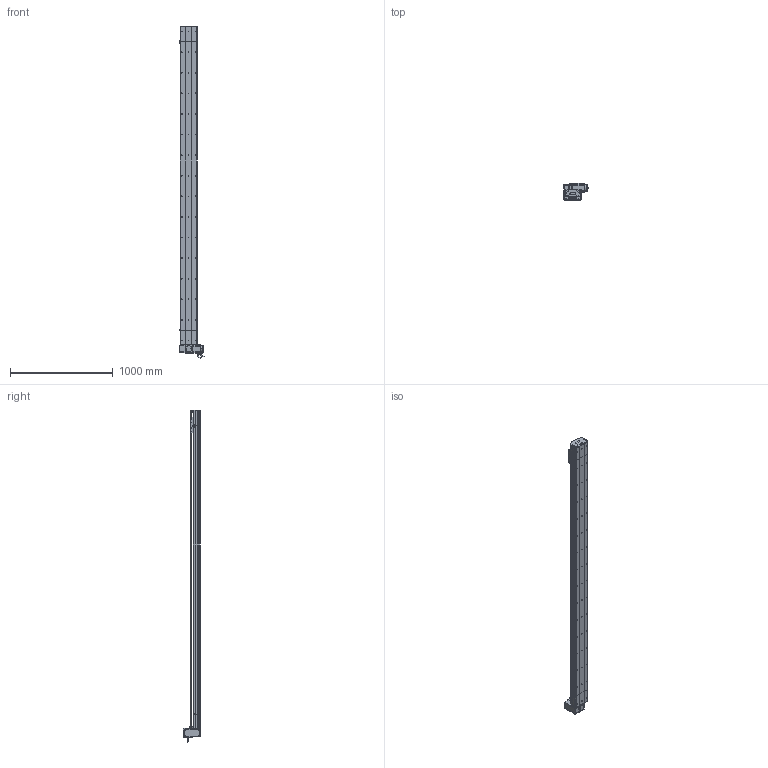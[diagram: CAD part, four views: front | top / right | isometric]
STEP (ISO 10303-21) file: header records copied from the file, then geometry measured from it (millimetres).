
FILE_DESCRIPTION (( 'STEP AP214' ), '1' );
FILE_NAME ('D17 TBH RT S2800.STEP', '2010-06-30T08:55:53', ( 'Christophe Gaillard' ), ( 'SGA' ), 'SwSTEP 2.0', 'SolidWorks 2010', '' );
FILE_SCHEMA (( 'AUTOMOTIVE_DESIGN' ));
Length unit declared in the file: millimetre
Products named in the file (40): course 2800 D17B_Default; vis M5 L70_Default; couvercle D17B course L2800_Default; corpl head D17 _Default; Head RT D17B_Default; plaque de  bout head D17B RT_Default; couvercle D17B head_Default; Arbre+rail head D17B; cache D17_Default; couvercle D17B_Default; tete d''axe poulie D17B; Conecteur_Default; corps 90BLDC125A-640; vis M5 L25_Default; Conecteur2_Default; guide D17; vis M5 L5_Default; poulie head_Default; couroie head D17_Default; Vis M5 L16-2_Default; vis M5 L8 90°_Default; Rail D17B; Couroie+ rail D17 Course 2800 ; Moteur motionking 90BLDC125A-640; plaque de  bout tail D17B_Default; Plaque racord D17_Default; vis M5 L12_Default; corp D17B 2800_Default; Couroie tail D17B_Default; Chariot D17; avant 90BLDC125A-640; vis M5 L16_Default; chariot D17S_Default; cache arbre D17_Default; corpl tail D17B_Default; Tail D17B_Default; Renvoi RT_Default; codeur 90BLDC125-640; D17 TBH RT S2800; poulie tail_Default
Assembly tree (70 placements, depth 4):
  D17 TBH RT S2800
    Tail D17B_Default
      Couroie tail D17B_Default
      vis M5 L25_Default  x2
      Rail D17B
      tete d''axe poulie D17B
      vis M5 L8 90°_Default  x2
      poulie tail_Default
      vis M5 L12_Default  x4
      corpl tail D17B_Default
      couvercle D17B_Default
      plaque de  bout tail D17B_Default
    course 2800 D17B_Default
      corp D17B 2800_Default
      Couroie+ rail D17 Course 2800 
      couvercle D17B course L2800_Default
    chariot D17S_Default
      guide D17  x2
      vis M5 L12_Default  x4
      Chariot D17
    Head RT D17B_Default
      vis M5 L70_Default  x4
      vis M5 L16_Default  x2
      Vis M5 L16-2_Default  x4
      Moteur motionking 90BLDC125A-640
        Conecteur_Default
        corps 90BLDC125A-640
        codeur 90BLDC125-640
        Conecteur2_Default
        avant 90BLDC125A-640
      cache arbre D17_Default
      Renvoi RT_Default
      cache D17_Default  x2
      vis M5 L5_Default  x4
      vis M5 L25_Default  x2
      vis M5 L12_Default  x8
      corpl head D17 _Default
      poulie head_Default
      Plaque racord D17_Default
      couvercle D17B head_Default
      couroie head D17_Default
      plaque de  bout head D17B RT_Default
      Arbre+rail head D17B
Bounding box: 245.2 x 166.15 x 3223.95 mm (x, y, z)
Volume: 18459791.7 mm3; surface area: 5368246.8 mm2
Topology: 94 solids, 94 shells, 2761 faces, 7041 edges, 4530 vertices
Faces by surface type: plane 1607, cylinder 841, bspline 136, cone 88, torus 85, sphere 4
Entity records: 87288 total; most frequent: CARTESIAN_POINT 25613, ORIENTED_EDGE 10854, DIRECTION 10284, EDGE_CURVE 5427, VERTEX_POINT 3554, VECTOR 3534, LINE 3534, AXIS2_PLACEMENT_3D 3375
